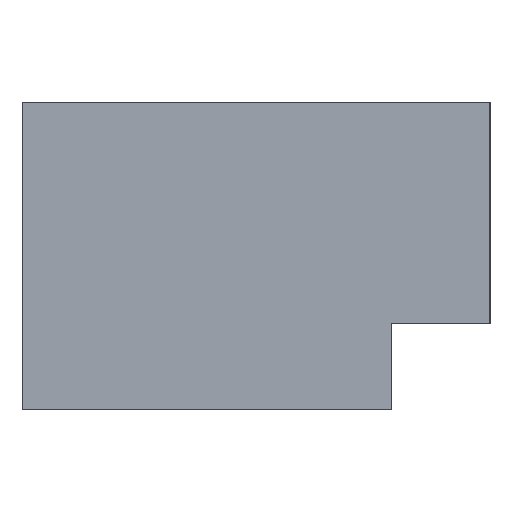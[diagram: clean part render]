
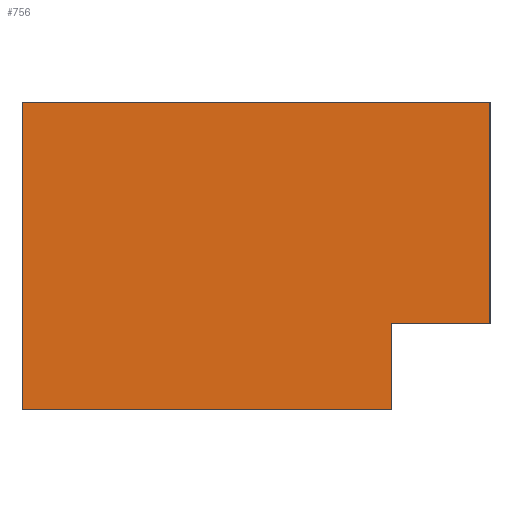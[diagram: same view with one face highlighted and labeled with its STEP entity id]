
A CAD part, left-side view. The second image highlights one B-rep face of the part: STEP entity #756.
In plain terms, the highlighted planar face has unit normal (1, 0, 0).
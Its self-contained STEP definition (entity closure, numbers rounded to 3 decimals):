
#701=CARTESIAN_POINT('Axis2P3D Location',(-62.5,0.,0.)) ;
#706=CARTESIAN_POINT('Line Origine',(-62.5,-34.,-5.5)) ;
#710=CARTESIAN_POINT('Vertex',(-62.5,-38.,-5.5)) ;
#712=CARTESIAN_POINT('Vertex',(-62.5,-30.,-5.5)) ;
#715=CARTESIAN_POINT('Line Origine',(-62.5,-30.,-9.)) ;
#719=CARTESIAN_POINT('Vertex',(-62.5,-30.,-12.5)) ;
#722=CARTESIAN_POINT('Line Origine',(-62.5,-15.,-12.5)) ;
#726=CARTESIAN_POINT('Vertex',(-62.5,0.,-12.5)) ;
#729=CARTESIAN_POINT('Line Origine',(-62.5,0.,0.)) ;
#733=CARTESIAN_POINT('Vertex',(-62.5,0.,12.5)) ;
#736=CARTESIAN_POINT('Line Origine',(-62.5,-19.,12.5)) ;
#740=CARTESIAN_POINT('Vertex',(-62.5,-38.,12.5)) ;
#743=CARTESIAN_POINT('Line Origine',(-62.5,-38.,3.5)) ;
#702=DIRECTION('Axis2P3D Direction',(1.,0.,0.)) ;
#703=DIRECTION('Axis2P3D XDirection',(0.,1.,0.)) ;
#707=DIRECTION('Vector Direction',(0.,1.,0.)) ;
#716=DIRECTION('Vector Direction',(0.,0.,-1.)) ;
#723=DIRECTION('Vector Direction',(0.,1.,0.)) ;
#730=DIRECTION('Vector Direction',(0.,0.,1.)) ;
#737=DIRECTION('Vector Direction',(0.,-1.,0.)) ;
#744=DIRECTION('Vector Direction',(0.,0.,-1.)) ;
#704=AXIS2_PLACEMENT_3D('Plane Axis2P3D',#701,#702,#703) ;
#749=ORIENTED_EDGE('',*,*,#714,.T.) ;
#750=ORIENTED_EDGE('',*,*,#721,.T.) ;
#751=ORIENTED_EDGE('',*,*,#728,.T.) ;
#752=ORIENTED_EDGE('',*,*,#735,.T.) ;
#753=ORIENTED_EDGE('',*,*,#742,.T.) ;
#754=ORIENTED_EDGE('',*,*,#747,.T.) ;
#708=VECTOR('Line Direction',#707,1.) ;
#717=VECTOR('Line Direction',#716,1.) ;
#724=VECTOR('Line Direction',#723,1.) ;
#731=VECTOR('Line Direction',#730,1.) ;
#738=VECTOR('Line Direction',#737,1.) ;
#745=VECTOR('Line Direction',#744,1.) ;
#756=ADVANCED_FACE('MANIFOLD_SOLID_BREP #3688',(#755),#705,.T.) ;
#714=EDGE_CURVE('',#711,#713,#709,.T.) ;
#721=EDGE_CURVE('',#713,#720,#718,.T.) ;
#728=EDGE_CURVE('',#720,#727,#725,.T.) ;
#735=EDGE_CURVE('',#727,#734,#732,.T.) ;
#742=EDGE_CURVE('',#734,#741,#739,.T.) ;
#747=EDGE_CURVE('',#741,#711,#746,.T.) ;
#748=EDGE_LOOP('',(#749,#750,#751,#752,#753,#754)) ;
#755=FACE_OUTER_BOUND('',#748,.T.) ;
#709=LINE('Line',#706,#708) ;
#718=LINE('Line',#715,#717) ;
#725=LINE('Line',#722,#724) ;
#732=LINE('Line',#729,#731) ;
#739=LINE('Line',#736,#738) ;
#746=LINE('Line',#743,#745) ;
#705=PLANE('Plane',#704) ;
#711=VERTEX_POINT('',#710) ;
#713=VERTEX_POINT('',#712) ;
#720=VERTEX_POINT('',#719) ;
#727=VERTEX_POINT('',#726) ;
#734=VERTEX_POINT('',#733) ;
#741=VERTEX_POINT('',#740) ;
